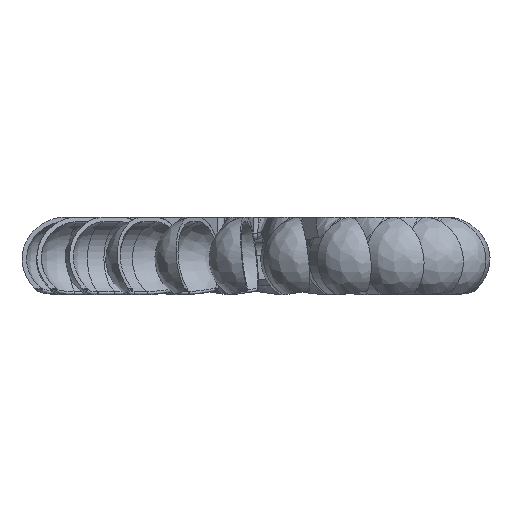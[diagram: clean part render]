
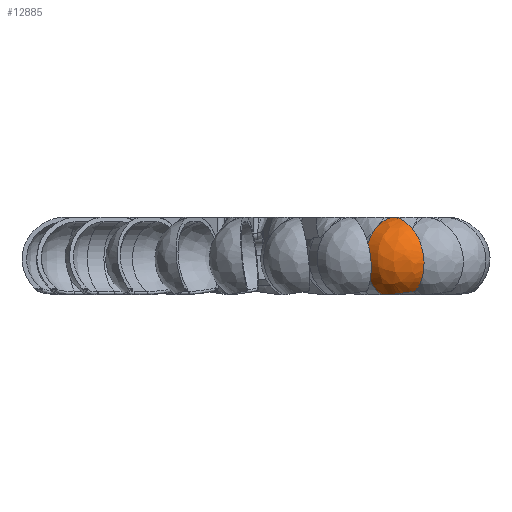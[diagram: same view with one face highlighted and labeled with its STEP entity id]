
A CAD part, front view. The second image highlights one B-rep face of the part: STEP entity #12885.
In plain terms, the highlighted free-form (B-spline) face has degree [2, 2] with [3, 5] control points.
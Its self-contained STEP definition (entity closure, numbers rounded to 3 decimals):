
#89=(
BOUNDED_SURFACE()
B_SPLINE_SURFACE(2,2,((#36567,#36568,#36569,#36570,#36571),(#36572,#36573,
#36574,#36575,#36576),(#36577,#36578,#36579,#36580,#36581)),
 .UNSPECIFIED.,.F.,.F.,.F.)
B_SPLINE_SURFACE_WITH_KNOTS((3,3),(3,2,3),(-1.467,0.),
(-3.142,-1.658,-0.175),.UNSPECIFIED.)
GEOMETRIC_REPRESENTATION_ITEM()
RATIONAL_B_SPLINE_SURFACE(((1.,0.737,1.,0.737,1.),
(0.743,0.548,0.743,0.548,
0.743),(1.,0.737,1.,0.737,1.)))
REPRESENTATION_ITEM('')
SURFACE()
);
#1493=B_SPLINE_CURVE_WITH_KNOTS('',3,(#36162,#36163,#36164,#36165,#36166,
#36167,#36168,#36169,#36170,#36171,#36172,#36173,#36174,#36175,#36176,#36177,
#36178,#36179,#36180,#36181,#36182,#36183,#36184,#36185,#36186,#36187,#36188),
 .UNSPECIFIED.,.F.,.F.,(4,2,2,2,3,2,2,2,2,2,2,2,4),(-2.04,-1.66,
-1.152,-0.576,0.,0.576,1.152,
1.66,2.169,2.674,3.18,3.685,
4.19),.UNSPECIFIED.);
#1498=B_SPLINE_CURVE_WITH_KNOTS('',3,(#36320,#36321,#36322,#36323,#36324,
#36325,#36326,#36327,#36328,#36329),.UNSPECIFIED.,.F.,.F.,(4,2,2,2,4),(-0.198,
-0.138,-0.088,-0.054,-0.022),
 .UNSPECIFIED.);
#1507=B_SPLINE_CURVE_WITH_KNOTS('',3,(#36545,#36546,#36547,#36548,#36549,
#36550,#36551,#36552,#36553,#36554,#36555,#36556,#36557,#36558,#36559,#36560,
#36561,#36562,#36563,#36564),.UNSPECIFIED.,.F.,.F.,(4,2,2,2,2,2,2,2,2,4),
(8.299,8.544,8.789,9.045,9.302,
9.594,9.886,10.07,10.254,10.632),
 .UNSPECIFIED.);
#1666=CIRCLE('',#13104,14.);
#1971=CIRCLE('',#13802,14.);
#1974=CIRCLE('',#13806,14.);
#1980=CIRCLE('',#13820,14.5);
#2673=FACE_OUTER_BOUND('',#3400,.T.);
#3400=EDGE_LOOP('',(#11087,#11088,#11089,#11090,#11091,#11092,#11093));
#4523=VERTEX_POINT('',#16753);
#4768=VERTEX_POINT('',#18819);
#5519=VERTEX_POINT('',#36122);
#5522=VERTEX_POINT('',#36130);
#5524=VERTEX_POINT('',#36161);
#5534=VERTEX_POINT('',#36317);
#5535=VERTEX_POINT('',#36319);
#6019=EDGE_CURVE('',#4768,#4523,#1666,.T.);
#7372=EDGE_CURVE('',#4523,#5519,#1971,.T.);
#7377=EDGE_CURVE('',#5522,#4768,#1974,.T.);
#7379=EDGE_CURVE('',#5524,#5519,#1493,.T.);
#7393=EDGE_CURVE('',#5534,#5535,#1498,.T.);
#7407=EDGE_CURVE('',#5522,#5535,#1507,.T.);
#7408=EDGE_CURVE('',#5524,#5534,#1980,.T.);
#11087=ORIENTED_EDGE('',*,*,#7379,.T.);
#11088=ORIENTED_EDGE('',*,*,#7372,.F.);
#11089=ORIENTED_EDGE('',*,*,#6019,.F.);
#11090=ORIENTED_EDGE('',*,*,#7377,.F.);
#11091=ORIENTED_EDGE('',*,*,#7407,.T.);
#11092=ORIENTED_EDGE('',*,*,#7393,.F.);
#11093=ORIENTED_EDGE('',*,*,#7408,.F.);
#12885=ADVANCED_FACE('',(#2673),#89,.F.);
#13104=AXIS2_PLACEMENT_3D('',#18841,#14299,#14300);
#13802=AXIS2_PLACEMENT_3D('',#36123,#16007,#16008);
#13806=AXIS2_PLACEMENT_3D('',#36132,#16017,#16018);
#13820=AXIS2_PLACEMENT_3D('',#36566,#16054,#16055);
#14299=DIRECTION('center_axis',(-0.655,0.756,0.));
#14300=DIRECTION('ref_axis',(0.,0.,-1.));
#16007=DIRECTION('center_axis',(-0.655,0.756,0.));
#16008=DIRECTION('ref_axis',(0.,0.,-1.));
#16017=DIRECTION('center_axis',(-0.655,0.756,0.));
#16018=DIRECTION('ref_axis',(0.,0.,-1.));
#16054=DIRECTION('center_axis',(0.756,0.655,0.));
#16055=DIRECTION('ref_axis',(0.654,-0.755,-0.034));
#16753=CARTESIAN_POINT('',(-74.955,-59.522,15.));
#18819=CARTESIAN_POINT('',(-79.73,-63.66,12.013));
#18841=CARTESIAN_POINT('Origin',(-72.964,-57.797,1.25));
#36122=CARTESIAN_POINT('',(-74.801,-59.389,15.037));
#36123=CARTESIAN_POINT('Origin',(-72.964,-57.797,1.25));
#36130=CARTESIAN_POINT('',(-78.478,-62.575,-10.698));
#36132=CARTESIAN_POINT('Origin',(-72.964,-57.797,1.25));
#36161=CARTESIAN_POINT('',(-66.254,-65.541,-8.51));
#36162=CARTESIAN_POINT('Ctrl Pts',(-66.254,-65.541,
-8.51));
#36163=CARTESIAN_POINT('Ctrl Pts',(-65.986,-65.923,
-8.046));
#36164=CARTESIAN_POINT('Ctrl Pts',(-65.729,-66.301,-7.527));
#36165=CARTESIAN_POINT('Ctrl Pts',(-65.197,-67.119,
-6.242));
#36166=CARTESIAN_POINT('Ctrl Pts',(-64.945,-67.534,
-5.45));
#36167=CARTESIAN_POINT('Ctrl Pts',(-64.55,-68.244,
-3.836));
#36168=CARTESIAN_POINT('Ctrl Pts',(-64.384,-68.59,-2.856));
#36169=CARTESIAN_POINT('Ctrl Pts',(-64.212,-69.107,
-0.841));
#36170=CARTESIAN_POINT('Ctrl Pts',(-64.199,-69.285,
0.192));
#36171=CARTESIAN_POINT('Ctrl Pts',(-64.273,-69.349,
1.147));
#36172=CARTESIAN_POINT('Ctrl Pts',(-64.348,-69.414,2.102));
#36173=CARTESIAN_POINT('Ctrl Pts',(-64.522,-69.375,
3.135));
#36174=CARTESIAN_POINT('Ctrl Pts',(-65.009,-69.131,
5.15));
#36175=CARTESIAN_POINT('Ctrl Pts',(-65.327,-68.918,
6.13));
#36176=CARTESIAN_POINT('Ctrl Pts',(-65.974,-68.426,
7.744));
#36177=CARTESIAN_POINT('Ctrl Pts',(-66.35,-68.118,
8.536));
#36178=CARTESIAN_POINT('Ctrl Pts',(-67.19,-67.38,
10.008));
#36179=CARTESIAN_POINT('Ctrl Pts',(-67.655,-66.951,
10.688));
#36180=CARTESIAN_POINT('Ctrl Pts',(-68.559,-66.087,
11.824));
#36181=CARTESIAN_POINT('Ctrl Pts',(-69.082,-65.571,
12.385));
#36182=CARTESIAN_POINT('Ctrl Pts',(-70.181,-64.456,
13.352));
#36183=CARTESIAN_POINT('Ctrl Pts',(-70.756,-63.856,13.756));
#36184=CARTESIAN_POINT('Ctrl Pts',(-71.831,-62.71,
14.363));
#36185=CARTESIAN_POINT('Ctrl Pts',(-72.432,-62.058,
14.622));
#36186=CARTESIAN_POINT('Ctrl Pts',(-73.641,-60.716,14.959));
#36187=CARTESIAN_POINT('Ctrl Pts',(-74.25,-60.025,
15.037));
#36188=CARTESIAN_POINT('Ctrl Pts',(-74.801,-59.389,
15.037));
#36317=CARTESIAN_POINT('',(-66.586,-65.157,-8.992));
#36319=CARTESIAN_POINT('',(-67.28,-64.988,-9.485));
#36320=CARTESIAN_POINT('Ctrl Pts',(-66.586,-65.157,-8.992));
#36321=CARTESIAN_POINT('Ctrl Pts',(-66.638,-65.098,
-9.064));
#36322=CARTESIAN_POINT('Ctrl Pts',(-66.702,-65.047,
-9.135));
#36323=CARTESIAN_POINT('Ctrl Pts',(-66.836,-64.978,-9.256));
#36324=CARTESIAN_POINT('Ctrl Pts',(-66.905,-64.954,
-9.31));
#36325=CARTESIAN_POINT('Ctrl Pts',(-67.028,-64.937,
-9.387));
#36326=CARTESIAN_POINT('Ctrl Pts',(-67.08,-64.936,
-9.415));
#36327=CARTESIAN_POINT('Ctrl Pts',(-67.182,-64.95,
-9.459));
#36328=CARTESIAN_POINT('Ctrl Pts',(-67.232,-64.965,
-9.476));
#36329=CARTESIAN_POINT('Ctrl Pts',(-67.28,-64.988,
-9.485));
#36545=CARTESIAN_POINT('Ctrl Pts',(-78.478,-62.575,
-10.698));
#36546=CARTESIAN_POINT('Ctrl Pts',(-78.211,-62.883,
-10.698));
#36547=CARTESIAN_POINT('Ctrl Pts',(-77.897,-63.204,
-10.694));
#36548=CARTESIAN_POINT('Ctrl Pts',(-77.227,-63.795,
-10.673));
#36549=CARTESIAN_POINT('Ctrl Pts',(-76.87,-64.066,
-10.656));
#36550=CARTESIAN_POINT('Ctrl Pts',(-76.176,-64.53,
-10.617));
#36551=CARTESIAN_POINT('Ctrl Pts',(-75.77,-64.765,
-10.59));
#36552=CARTESIAN_POINT('Ctrl Pts',(-74.928,-65.169,-10.525));
#36553=CARTESIAN_POINT('Ctrl Pts',(-74.492,-65.339,
-10.486));
#36554=CARTESIAN_POINT('Ctrl Pts',(-73.624,-65.613,
-10.402));
#36555=CARTESIAN_POINT('Ctrl Pts',(-73.107,-65.735,-10.348));
#36556=CARTESIAN_POINT('Ctrl Pts',(-72.061,-65.885,
-10.226));
#36557=CARTESIAN_POINT('Ctrl Pts',(-71.532,-65.913,
-10.158));
#36558=CARTESIAN_POINT('Ctrl Pts',(-70.746,-65.895,-10.052));
#36559=CARTESIAN_POINT('Ctrl Pts',(-70.413,-65.872,
-10.004));
#36560=CARTESIAN_POINT('Ctrl Pts',(-69.752,-65.786,
-9.906));
#36561=CARTESIAN_POINT('Ctrl Pts',(-69.424,-65.724,
-9.856));
#36562=CARTESIAN_POINT('Ctrl Pts',(-68.524,-65.508,
-9.711));
#36563=CARTESIAN_POINT('Ctrl Pts',(-67.885,-65.285,
-9.6));
#36564=CARTESIAN_POINT('Ctrl Pts',(-67.28,-64.988,
-9.485));
#36566=CARTESIAN_POINT('Origin',(-72.964,-57.797,1.75));
#36567=CARTESIAN_POINT('Ctrl Pts',(-63.52,-68.696,0.248));
#36568=CARTESIAN_POINT('Ctrl Pts',(-64.214,-69.298,
0.248));
#36569=CARTESIAN_POINT('Ctrl Pts',(-64.274,-69.35,
1.163));
#36570=CARTESIAN_POINT('Ctrl Pts',(-64.335,-69.403,
2.078));
#36571=CARTESIAN_POINT('Ctrl Pts',(-63.651,-68.81,
2.237));
#36572=CARTESIAN_POINT('Ctrl Pts',(-64.406,-67.673,
-12.75));
#36573=CARTESIAN_POINT('Ctrl Pts',(-74.102,-76.074,
-12.75));
#36574=CARTESIAN_POINT('Ctrl Pts',(-74.947,-76.806,
0.03));
#36575=CARTESIAN_POINT('Ctrl Pts',(-75.792,-77.539,
12.81));
#36576=CARTESIAN_POINT('Ctrl Pts',(-66.244,-69.265,
15.037));
#36577=CARTESIAN_POINT('Ctrl Pts',(-72.964,-57.797,
-12.75));
#36578=CARTESIAN_POINT('Ctrl Pts',(-82.659,-66.198,
-12.75));
#36579=CARTESIAN_POINT('Ctrl Pts',(-83.504,-66.93,0.03));
#36580=CARTESIAN_POINT('Ctrl Pts',(-84.349,-67.662,
12.81));
#36581=CARTESIAN_POINT('Ctrl Pts',(-74.801,-59.389,
15.037));
